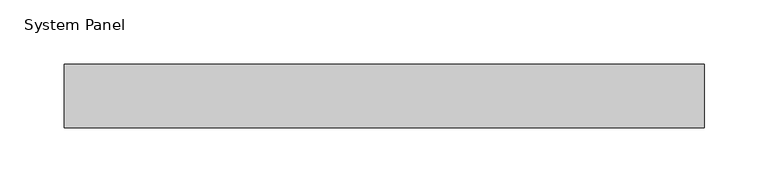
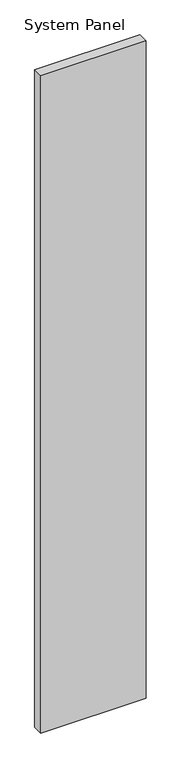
"""IFC4 building model written with IfcOpenShell, lengths in millimetres: plate geometry, System Panel : MetecnoPanel_50mm_Plain_Surfmist."""

from ifc_helpers import new_model, si_unit, origin, origin_with_axes, place, context, project, spatial, polyline, outline, extrude, source, transform, mapped, element, save


def system_panel_6109f289(model_context):
    return source(origin(), model_context, "Body", "SweptSolid", [
        extrude(outline(polyline([(250.0, 0.0), (-250.0, 0.0), (-250.0, 50.0), (250.0, 50.0), (250.0, 0.0)])), origin_with_axes(), (0.0, 0.0, 1.0), 3300.0),
    ])


if __name__ == "__main__":
    model = new_model("IFC4")
    model_context = context("Model", 3, world=origin())
    ifc_project = project(units=[si_unit("LENGTHUNIT", "METRE", prefix="MILLI")], contexts=[model_context])
    site = spatial("IfcSite", under=ifc_project)
    building = spatial("IfcBuilding", under=site)
    placement = place(None, origin())
    system_panel_shape = system_panel_6109f289(model_context)
    element("IfcPlate", 1, ObjectType="System Panel : MetecnoPanel_50mm_Plain_Surfmist", at=placement, inside=building, context=model_context, shape_type="MappedRepresentation", body=[
        mapped(system_panel_shape, transform((0.0, 0.0, 0.0), x_axis=(1.0, 0.0, 0.0), y_axis=(0.0, 1.0, 0.0), z_axis=(0.0, 0.0, 1.0))),
    ])
    save(model, "model.ifc")
